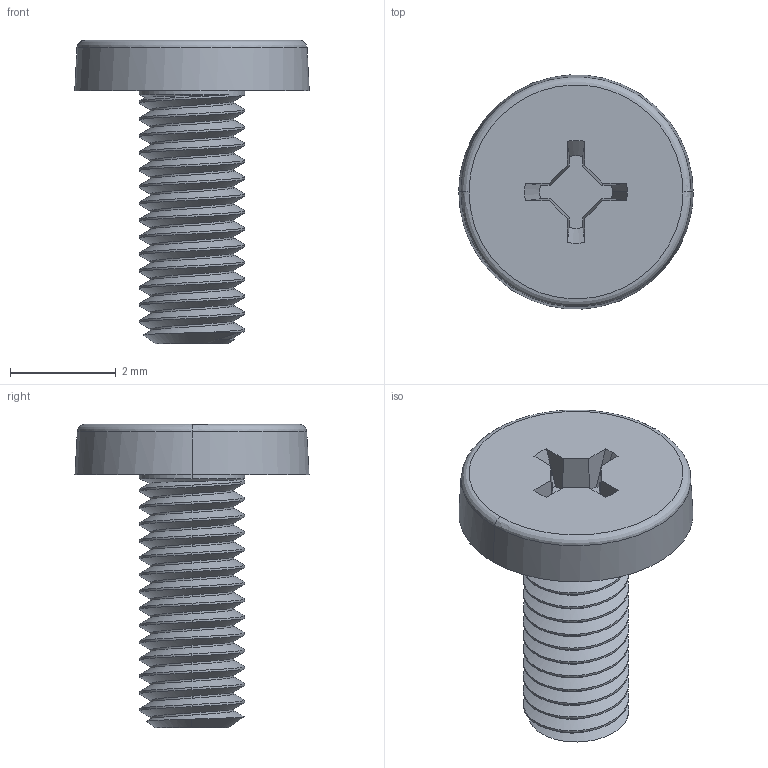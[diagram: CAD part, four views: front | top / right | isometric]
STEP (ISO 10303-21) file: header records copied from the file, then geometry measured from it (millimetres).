
FILE_DESCRIPTION(/* description */ (''),/* implementation_level */ '2;1');
FILE_NAME(/* name */ 'PANCAK~4',/* time_stamp */ '2020-01-25T13:39:11+01:00',/* author */ (''),/* organization */ (''),/* preprocessor_version */ 'ST-DEVELOPER v16.5',/* originating_system */ '',/* authorisation */ '');
FILE_SCHEMA (('AUTOMOTIVE_DESIGN'));
Length unit declared in the file: millimetre
Products named in the file (1): Document
Bounding box: 4.45 x 4.44 x 5.75 mm (x, y, z)
Volume: 25.8 mm3; surface area: 91.8 mm2
Topology: 1 solids, 1 shells, 92 faces, 261 edges, 173 vertices
Faces by surface type: bspline 76, plane 16
Entity records: 5428 total; most frequent: CARTESIAN_POINT 3996, ORIENTED_EDGE 522, EDGE_CURVE 261, VERTEX_POINT 173, B_SPLINE_CURVE_WITH_KNOTS 114, EDGE_LOOP 94, ADVANCED_FACE 92, FACE_OUTER_BOUND 92
